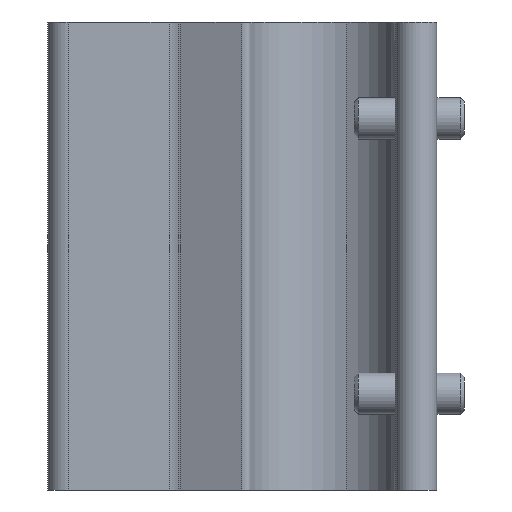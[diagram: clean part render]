
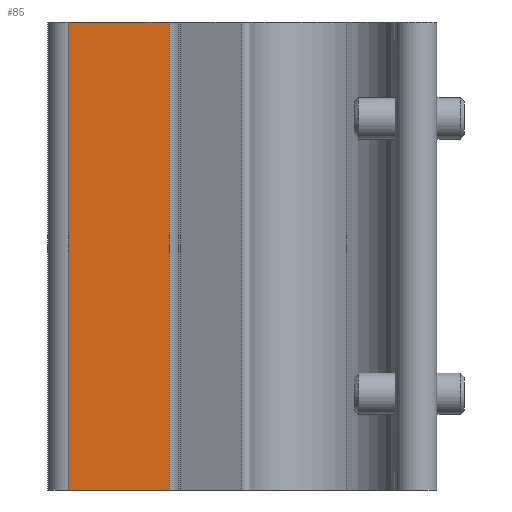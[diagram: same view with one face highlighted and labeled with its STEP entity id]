
A CAD part, front view. The second image highlights one B-rep face of the part: STEP entity #85.
In plain terms, the highlighted planar face has unit normal (0, -1, 0) as drawn and (-0.94, -0.342, 0) by its records, which use the part's own axes.
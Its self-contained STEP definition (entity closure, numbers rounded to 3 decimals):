
#85 = ADVANCED_FACE ( 'NONE', ( #1339 ), #2057, .F. ) ;
#95 = VERTEX_POINT ( 'NONE', #1484 ) ;
#158 = VECTOR ( 'NONE', #2214, 1000. ) ;
#169 = ORIENTED_EDGE ( 'NONE', *, *, #929, .T. ) ;
#175 = VERTEX_POINT ( 'NONE', #1096 ) ;
#186 = CARTESIAN_POINT ( 'NONE',  ( -0.147, 27.289, 34. ) ) ;
#277 = CARTESIAN_POINT ( 'NONE',  ( 2.358, 20.407, 0. ) ) ;
#316 = DIRECTION ( 'NONE',  ( -0.342, 0.94, 0. ) ) ;
#330 = VECTOR ( 'NONE', #2060, 1000. ) ;
#620 = LINE ( 'NONE', #1586, #1221 ) ;
#631 = DIRECTION ( 'NONE',  ( 0.94, 0.342, 0. ) ) ;
#789 = LINE ( 'NONE', #2045, #330 ) ;
#824 = VERTEX_POINT ( 'NONE', #277 ) ;
#929 = EDGE_CURVE ( 'NONE', #175, #95, #1179, .T. ) ;
#984 = CARTESIAN_POINT ( 'NONE',  ( -0.147, 27.289, -16. ) ) ;
#994 = DIRECTION ( 'NONE',  ( -0.342, 0.94, 0. ) ) ;
#1078 = DIRECTION ( 'NONE',  ( -0.342, 0.94, 0. ) ) ;
#1096 = CARTESIAN_POINT ( 'NONE',  ( 2.358, 20.407, 34. ) ) ;
#1119 = LINE ( 'NONE', #984, #158 ) ;
#1120 = VECTOR ( 'NONE', #1078, 1000. ) ;
#1179 = LINE ( 'NONE', #186, #1120 ) ;
#1221 = VECTOR ( 'NONE', #316, 1000. ) ;
#1252 = EDGE_CURVE ( 'NONE', #824, #175, #789, .T. ) ;
#1339 = FACE_OUTER_BOUND ( 'NONE', #1847, .T. ) ;
#1344 = CARTESIAN_POINT ( 'NONE',  ( -0.147, 27.289, -16. ) ) ;
#1484 = CARTESIAN_POINT ( 'NONE',  ( -0.147, 27.289, 34. ) ) ;
#1488 = ORIENTED_EDGE ( 'NONE', *, *, #2260, .F. ) ;
#1504 = CARTESIAN_POINT ( 'NONE',  ( -0.147, 27.289, 0. ) ) ;
#1586 = CARTESIAN_POINT ( 'NONE',  ( -1.644, 31.402, 0. ) ) ;
#1764 = AXIS2_PLACEMENT_3D ( 'NONE', #1344, #631, #994 ) ;
#1791 = ORIENTED_EDGE ( 'NONE', *, *, #2075, .F. ) ;
#1847 = EDGE_LOOP ( 'NONE', ( #2068, #169, #1791, #1488 ) ) ;
#2045 = CARTESIAN_POINT ( 'NONE',  ( 2.358, 20.407, -16. ) ) ;
#2049 = VERTEX_POINT ( 'NONE', #1504 ) ;
#2057 = PLANE ( 'NONE',  #1764 ) ;
#2060 = DIRECTION ( 'NONE',  ( 0., 0., 1. ) ) ;
#2068 = ORIENTED_EDGE ( 'NONE', *, *, #1252, .T. ) ;
#2075 = EDGE_CURVE ( 'NONE', #2049, #95, #1119, .T. ) ;
#2214 = DIRECTION ( 'NONE',  ( 0., 0., 1. ) ) ;
#2260 = EDGE_CURVE ( 'NONE', #824, #2049, #620, .T. ) ;
